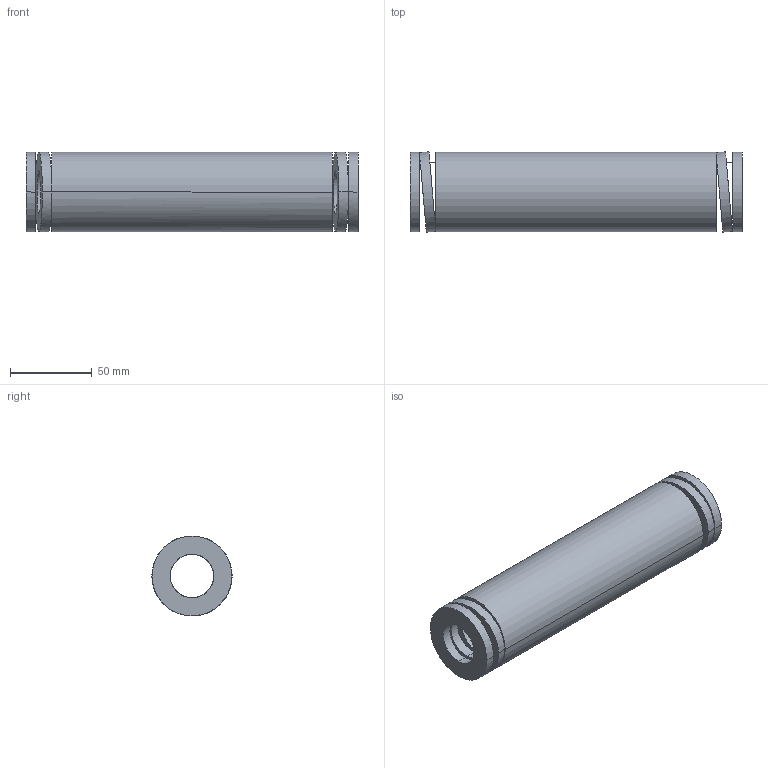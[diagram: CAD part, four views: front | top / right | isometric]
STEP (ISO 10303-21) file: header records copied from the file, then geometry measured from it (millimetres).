
FILE_DESCRIPTION(('CATIA V5 STEP Exchange'),'2;1');
FILE_NAME('C:\Users\Utente\Desktop\IO LAVORO\3D X SITO CF\X SITO\3D files 392B\392-B50-203.stp','2021-08-13T11:25:33+00:00',('none'),('none'),'CATIA Version 5 Release 20 GA (IN-10)','CATIA V5 STEP AP203','none');
FILE_SCHEMA(('CONFIG_CONTROL_DESIGN'));
Length unit declared in the file: millimetre
Products named in the file (1): 392-B50-203
Bounding box: 203 x 49.12 x 48.8 mm (x, y, z)
Volume: 255616 mm3; surface area: 59208.3 mm2
Topology: 1 solids, 1 shells, 38 faces, 92 edges, 64 vertices
Faces by surface type: cylinder 28, plane 10
Entity records: 1626 total; most frequent: CARTESIAN_POINT 747, ORIENTED_EDGE 184, DIRECTION 124, EDGE_CURVE 92, VERTEX_POINT 64, AXIS2_PLACEMENT_3D 59, EDGE_LOOP 56, B_SPLINE_CURVE_WITH_KNOTS 44
